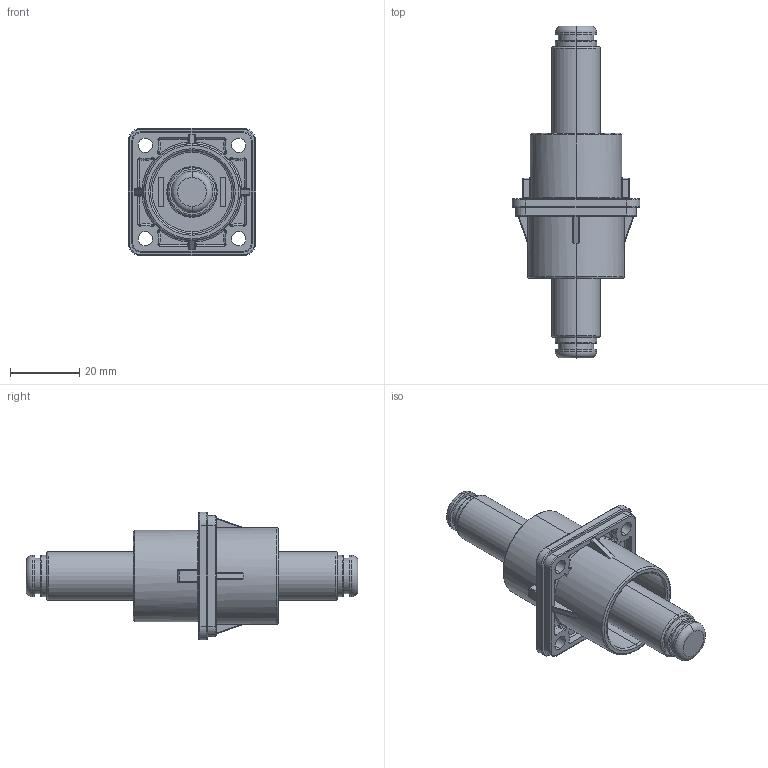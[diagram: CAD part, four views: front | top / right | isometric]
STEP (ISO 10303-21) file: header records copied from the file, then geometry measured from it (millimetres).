
FILE_DESCRIPTION (( 'STEP AP203' ), '1' );
FILE_NAME ('14.0mm Feed Thru Pin to Pin.STEP', '2015-03-11T13:10:30', ( 'gasf' ), ( '' ), 'SwSTEP 2.0', 'SolidWorks 2012', '' );
FILE_SCHEMA (( 'CONFIG_CONTROL_DESIGN' ));
Length unit declared in the file: millimetre
Products named in the file (1): 14.0mm Feed Thru Pin to Pin
Bounding box: 37 x 96 x 37 mm (x, y, z)
Volume: 26904.6 mm3; surface area: 12796.4 mm2
Topology: 1 solids, 1 shells, 334 faces, 788 edges, 451 vertices
Faces by surface type: cylinder 148, plane 77, torus 65, sphere 38, bspline 4, cone 2
Entity records: 9545 total; most frequent: CARTESIAN_POINT 1832, DIRECTION 1772, ORIENTED_EDGE 1512, EDGE_CURVE 756, AXIS2_PLACEMENT_3D 731, VERTEX_POINT 439, CIRCLE 400, EDGE_LOOP 357
